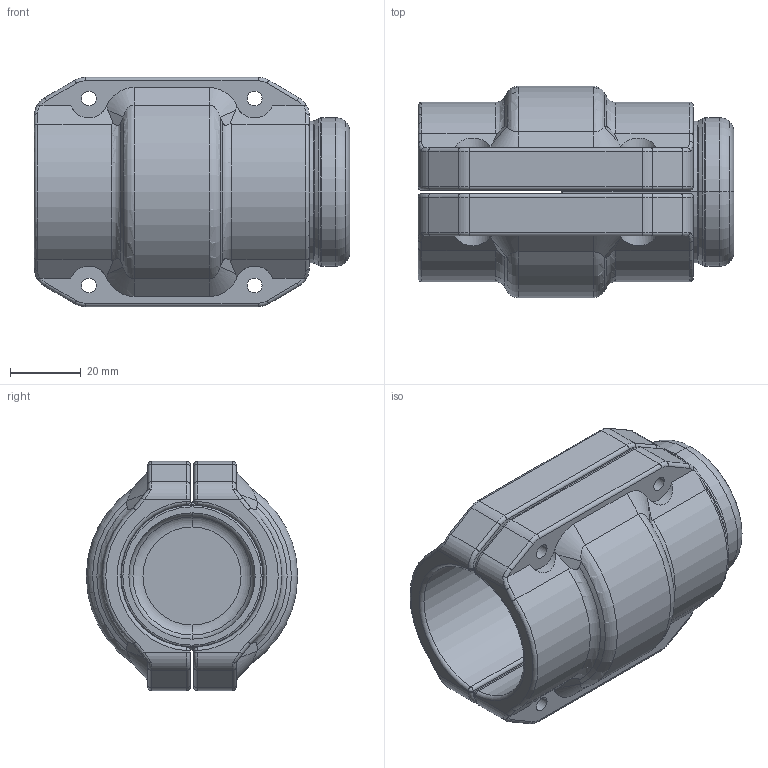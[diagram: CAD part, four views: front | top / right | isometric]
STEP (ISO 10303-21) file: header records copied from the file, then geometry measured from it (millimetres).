
FILE_DESCRIPTION((''),'2;1');
FILE_NAME('2015400699_ASM_4_ASM','2017-05-15T',('Administrator'),(''),'PRO/ENGINEER BY PARAMETRIC TECHNOLOGY CORPORATION, 2009360','PRO/ENGINEER BY PARAMETRIC TECHNOLOGY CORPORATION, 2009360','');
FILE_SCHEMA(('AUTOMOTIVE_DESIGN_CC2 { 1 2 10303 214 -1 1 5 2 }'));
Length unit declared in the file: millimetre
Products named in the file (5): 2015400600_5; 201540020001_1; 201540020000_1; 2015400200_ASM_1_ASM; 2015400699_ASM_4_ASM
Assembly tree (4 placements, depth 3):
  2015400699_ASM_4_ASM
    2015400600_5
    2015400200_ASM_1_ASM
      201540020001_1
      201540020000_1
Bounding box: 89.5 x 59.9 x 65 mm (x, y, z)
Volume: 121860.7 mm3; surface area: 43806.5 mm2
Topology: 3 solids, 3 shells, 239 faces, 621 edges, 381 vertices
Faces by surface type: cylinder 98, torus 64, plane 39, bspline 24, sphere 8, cone 6
Entity records: 10587 total; most frequent: CARTESIAN_POINT 2833, DIRECTION 1254, ORIENTED_EDGE 1226, PRESENTATION_STYLE_ASSIGNMENT 616, STYLED_ITEM 616, CURVE_STYLE 613, EDGE_CURVE 613, AXIS2_PLACEMENT_3D 535
